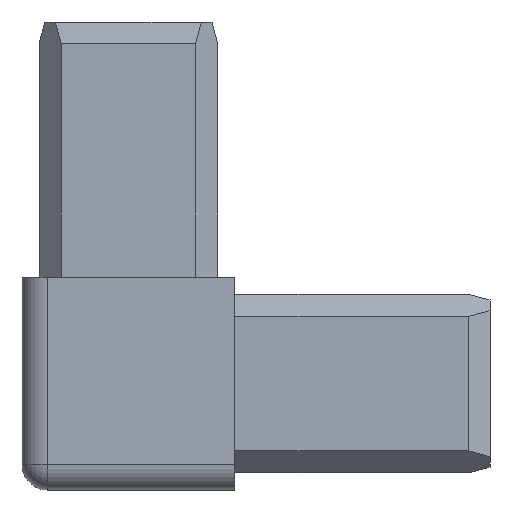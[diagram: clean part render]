
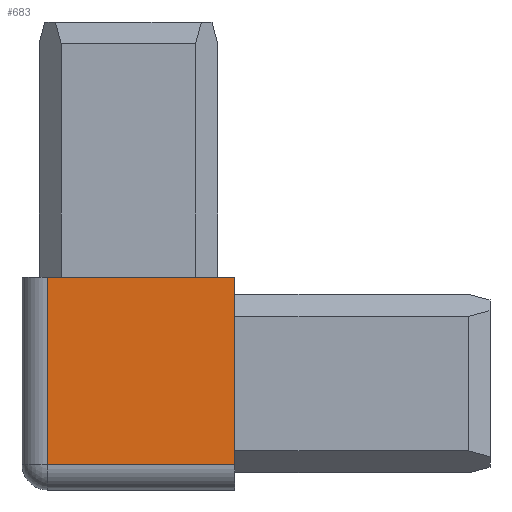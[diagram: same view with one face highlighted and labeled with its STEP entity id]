
A CAD part, left-side view. The second image highlights one B-rep face of the part: STEP entity #683.
In plain terms, the highlighted planar face has unit normal (-1, 0, 0).
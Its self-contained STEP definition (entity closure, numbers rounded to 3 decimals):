
#6 = DIRECTION ( 'NONE',  ( 0., 1., 0. ) ) ;
#24 = ORIENTED_EDGE ( 'NONE', *, *, #562, .T. ) ;
#29 = DIRECTION ( 'NONE',  ( 0., 0., -1. ) ) ;
#78 = LINE ( 'NONE', #1098, #659 ) ;
#182 = PLANE ( 'NONE',  #287 ) ;
#192 = CARTESIAN_POINT ( 'NONE',  ( -12.5, -12.5, 12.5 ) ) ;
#237 = VERTEX_POINT ( 'NONE', #192 ) ;
#240 = ORIENTED_EDGE ( 'NONE', *, *, #607, .T. ) ;
#287 = AXIS2_PLACEMENT_3D ( 'NONE', #628, #1314, #976 ) ;
#361 = VERTEX_POINT ( 'NONE', #699 ) ;
#372 = CARTESIAN_POINT ( 'NONE',  ( -12.5, 9.5, 42.5 ) ) ;
#419 = EDGE_CURVE ( 'NONE', #237, #361, #719, .T. ) ;
#447 = VECTOR ( 'NONE', #29, 1000. ) ;
#551 = VERTEX_POINT ( 'NONE', #1131 ) ;
#562 = EDGE_CURVE ( 'NONE', #551, #361, #1308, .T. ) ;
#599 = LINE ( 'NONE', #372, #1065 ) ;
#607 = EDGE_CURVE ( 'NONE', #237, #979, #78, .T. ) ;
#622 = DIRECTION ( 'NONE',  ( 0., -1., 0. ) ) ;
#628 = CARTESIAN_POINT ( 'NONE',  ( -12.5, 12.5, 42.5 ) ) ;
#659 = VECTOR ( 'NONE', #6, 1000. ) ;
#665 = CARTESIAN_POINT ( 'NONE',  ( -12.5, 12.5, -9.5 ) ) ;
#683 = ADVANCED_FACE ( 'NONE', ( #1197 ), #182, .F. ) ;
#699 = CARTESIAN_POINT ( 'NONE',  ( -12.5, -12.5, -9.5 ) ) ;
#719 = LINE ( 'NONE', #1052, #447 ) ;
#763 = EDGE_CURVE ( 'NONE', #979, #551, #599, .T. ) ;
#801 = DIRECTION ( 'NONE',  ( 0., 0., -1. ) ) ;
#892 = ORIENTED_EDGE ( 'NONE', *, *, #763, .T. ) ;
#967 = ORIENTED_EDGE ( 'NONE', *, *, #419, .F. ) ;
#976 = DIRECTION ( 'NONE',  ( 0., 1., 0. ) ) ;
#979 = VERTEX_POINT ( 'NONE', #986 ) ;
#986 = CARTESIAN_POINT ( 'NONE',  ( -12.5, 9.5, 12.5 ) ) ;
#1052 = CARTESIAN_POINT ( 'NONE',  ( -12.5, -12.5, 12.5 ) ) ;
#1065 = VECTOR ( 'NONE', #801, 1000. ) ;
#1098 = CARTESIAN_POINT ( 'NONE',  ( -12.5, -42.5, 12.5 ) ) ;
#1131 = CARTESIAN_POINT ( 'NONE',  ( -12.5, 9.5, -9.5 ) ) ;
#1197 = FACE_OUTER_BOUND ( 'NONE', #1213, .T. ) ;
#1213 = EDGE_LOOP ( 'NONE', ( #892, #24, #967, #240 ) ) ;
#1308 = LINE ( 'NONE', #665, #1446 ) ;
#1314 = DIRECTION ( 'NONE',  ( 1., 0., 0. ) ) ;
#1446 = VECTOR ( 'NONE', #622, 1000. ) ;
